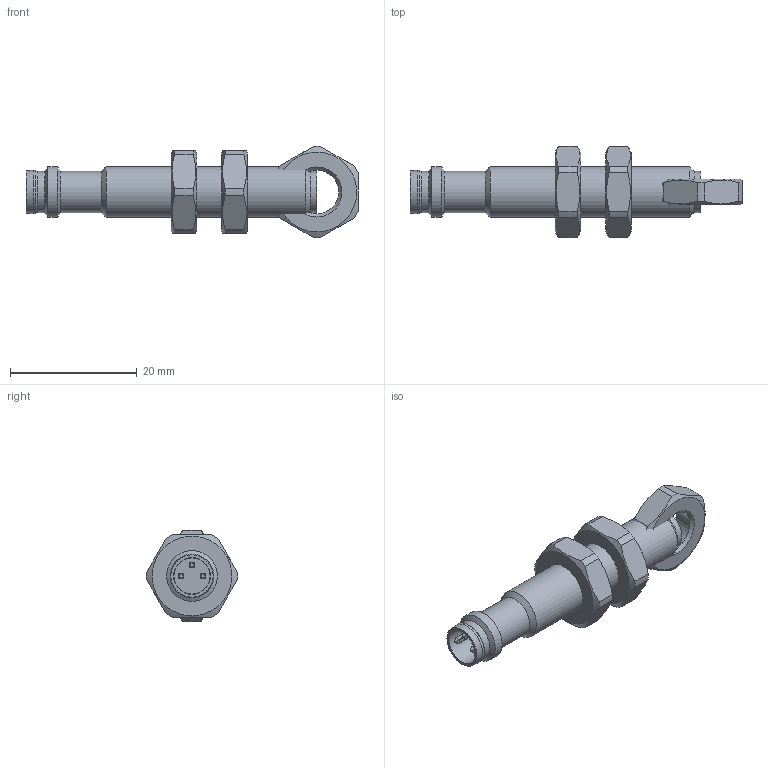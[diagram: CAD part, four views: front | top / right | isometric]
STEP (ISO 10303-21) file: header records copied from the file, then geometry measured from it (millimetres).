
FILE_DESCRIPTION( ( 'Unknown' ), '1' );
FILE_NAME( '//baumerholding.org/frauenfeld/bereich/BECH/Services/me_CAD/Solid Edge/Models/Dokumentationen/Induktiv/IxRx 08/Vereinfachte Modelle/Neutralformate/IFRD 08xxxT1_S35.stp', 'Unknown', ( 'Unknown' ), ( 'Unknown' ), 'XStep 1.0', 'Unknown', ' ' );
FILE_SCHEMA( ( 'CONFIG_CONTROL_DESIGN' ) );
Length unit declared in the file: millimetre
Products named in the file (3): Assem1; IFRD 08xxxT1_S35_oA; 101469
Bounding box: 52.45 x 14.39 x 14.4 mm (x, y, z)
Volume: 5226.9 mm3; surface area: 4014.8 mm2
Topology: 5 solids, 5 shells, 193 faces, 501 edges, 326 vertices
Faces by surface type: plane 108, cylinder 59, cone 26
Full cylindrical faces by diameter (mm): 5.8 x2, 6.5 x6, 6.9 x2, 6.917 x3, 8 x4
Entity records: 2738 total; most frequent: CARTESIAN_POINT 527, DIRECTION 442, ORIENTED_EDGE 404, EDGE_CURVE 202, AXIS2_PLACEMENT_3D 161, VERTEX_POINT 142, LINE 120, VECTOR 120
